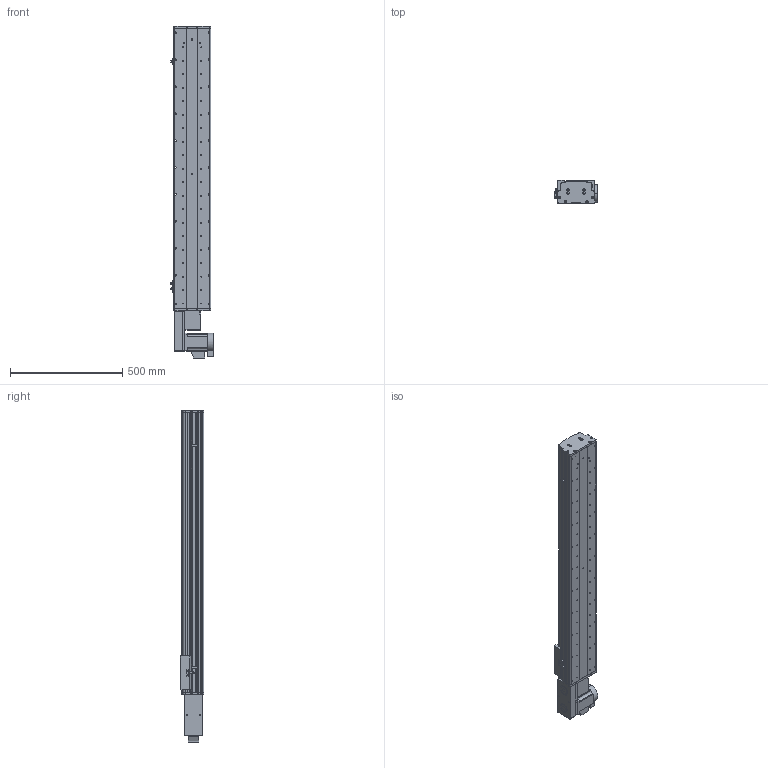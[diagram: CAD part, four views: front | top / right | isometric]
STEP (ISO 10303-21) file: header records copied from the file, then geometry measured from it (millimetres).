
FILE_DESCRIPTION (( 'STEP AP214' ), '1' );
FILE_NAME ('KSD165B-S1000-MLB-CM.STEP', '2017-10-16T06:22:11', ( '微软用户' ), ( '微软中国' ), 'SwSTEP 2.0', 'SolidWorks 2014', '' );
FILE_SCHEMA (( 'AUTOMOTIVE_DESIGN' ));
Length unit declared in the file: millimetre
Products named in the file (17): KSD165B-S1000-MLB-CM; HTPA26S5M250-A-H8 750W萇儂蚚; HTPA26S5M250-A-H8 400W萇儂蚚 ; 130宽模组马达安装板连板左右折同步带; 130宽模组保护罩上下左右折-同步带; 拸秶雄ん750W侜督萇儂; KSD165模组同步带底板-1000行程; KSD165模组-同步带防尘盖1-1000行程; 165宽马达安装板同步带左-改; U倰嫖萇假蚾璃; U倰嫖萇EEㄜSX672; 覜茼え68遵圉猾敕; KSD165模组-同步带-防撞垫2; KSD165模组同步带-防撞垫1; KSD165耀郪-ヶ傷啣1-肮祭湍; KSD165模组-后端板1-同步带; KSD165模组-同步带滑动座-最新版
Assembly tree (20 placements, depth 2):
  KSD165B-S1000-MLB-CM
    KSD165模组-同步带滑动座-最新版
    KSD165模组-后端板1-同步带
    KSD165耀郪-ヶ傷啣1-肮祭湍
    KSD165模组同步带-防撞垫1
    KSD165模组-同步带-防撞垫2
    覜茼え68遵圉猾敕
    U倰嫖萇EEㄜSX672  x3
    U倰嫖萇假蚾璃  x3
    165宽马达安装板同步带左-改
    KSD165模组-同步带防尘盖1-1000行程
    KSD165模组同步带底板-1000行程
    拸秶雄ん750W侜督萇儂
    130宽模组保护罩上下左右折-同步带
    130宽模组马达安装板连板左右折同步带
    HTPA26S5M250-A-H8 400W萇儂蚚 
    HTPA26S5M250-A-H8 750W萇儂蚚
Bounding box: 191.2 x 104 x 1478 mm (x, y, z)
Volume: 7915956.1 mm3; surface area: 1842028.2 mm2
Topology: 21 solids, 22 shells, 1979 faces, 5586 edges, 3648 vertices
Faces by surface type: cylinder 1277, plane 590, cone 112
Entity records: 64384 total; most frequent: CARTESIAN_POINT 13194, DIRECTION 10570, ORIENTED_EDGE 9832, EDGE_CURVE 4916, AXIS2_PLACEMENT_3D 4150, VERTEX_POINT 3240, CIRCLE 2368, VECTOR 2270
